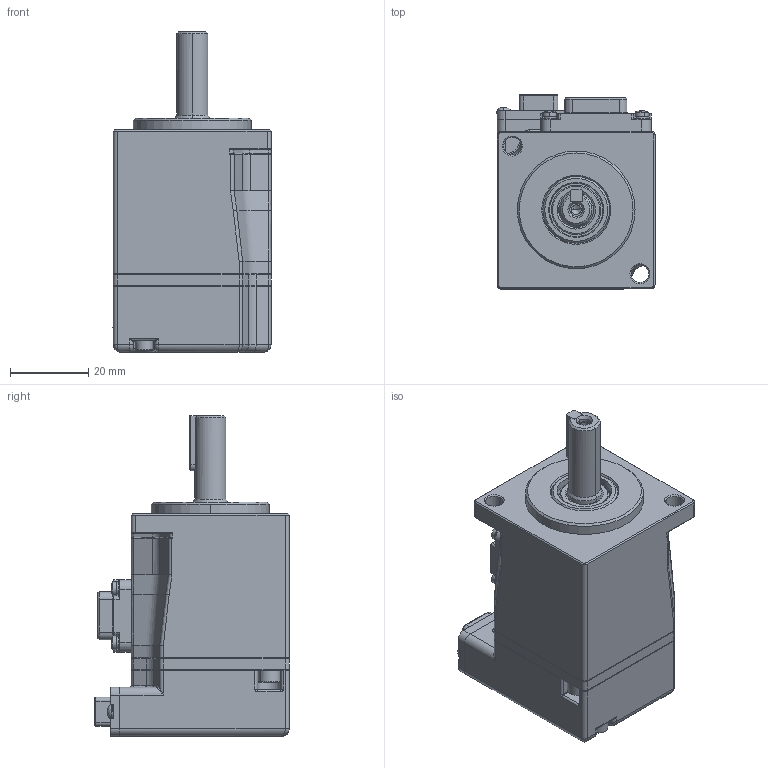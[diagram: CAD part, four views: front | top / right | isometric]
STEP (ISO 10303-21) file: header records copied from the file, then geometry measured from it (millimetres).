
FILE_DESCRIPTION (( 'STEP AP203' ), '1' );
FILE_NAME ('俋倛芞-50W-ACM2S-拸价陬.STEP', '2021-11-15T12:16:56', ( '' ), ( '' ), 'SwSTEP 2.0', 'SolidWorks 2020', '' );
FILE_SCHEMA (( 'CONFIG_CONTROL_DESIGN' ));
Length unit declared in the file: millimetre
Products named in the file (1): 俋倛芞-50W-ACM2S-拸价陬
Bounding box: 40.3 x 49.5 x 81.7 mm (x, y, z)
Volume: 93246 mm3; surface area: 19091.6 mm2
Topology: 13 solids, 26 shells, 2212 faces, 5637 edges, 3507 vertices
Faces by surface type: plane 1275, cylinder 633, bspline 110, cone 107, torus 79, sphere 8
Entity records: 74099 total; most frequent: CARTESIAN_POINT 21191, ORIENTED_EDGE 11180, DIRECTION 10744, EDGE_CURVE 5590, VECTOR 3644, LINE 3644, AXIS2_PLACEMENT_3D 3550, VERTEX_POINT 3507
